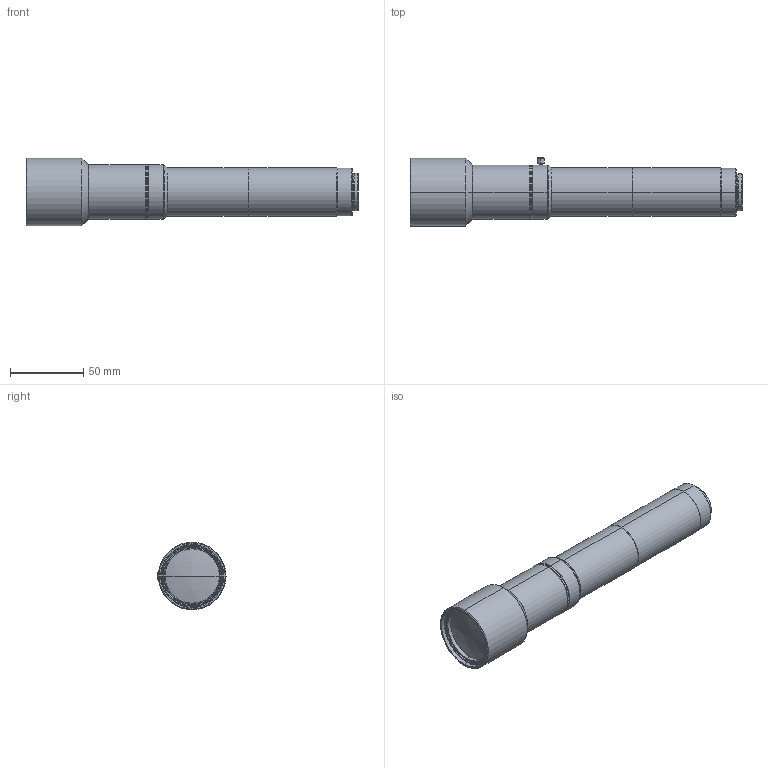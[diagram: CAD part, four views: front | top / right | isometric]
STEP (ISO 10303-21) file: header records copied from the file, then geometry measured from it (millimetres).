
FILE_DESCRIPTION (( 'STEP AP214' ), '1' );
FILE_NAME ('VS-THV4-110_S.STEP', '2020-05-18T23:27:12', ( '' ), ( '' ), 'SwSTEP 2.0', 'SolidWorks 2018', '' );
FILE_SCHEMA (( 'AUTOMOTIVE_DESIGN' ));
Length unit declared in the file: millimetre
Products named in the file (1): VS-THV4-110_S
Bounding box: 225.97 x 46.3 x 46 mm (x, y, z)
Volume: 228177.6 mm3; surface area: 30214.6 mm2
Topology: 1 solids, 1 shells, 112 faces, 224 edges, 129 vertices
Faces by surface type: cone 56, cylinder 38, plane 16, sphere 2
Entity records: 2950 total; most frequent: DIRECTION 576, CARTESIAN_POINT 498, ORIENTED_EDGE 448, AXIS2_PLACEMENT_3D 241, EDGE_CURVE 224, VERTEX_POINT 129, CIRCLE 128, EDGE_LOOP 127
